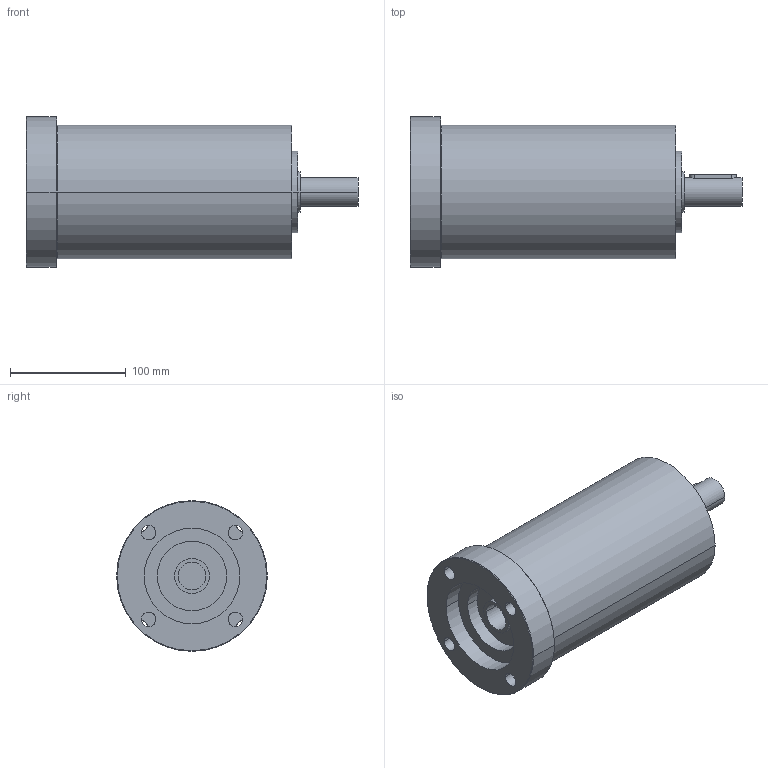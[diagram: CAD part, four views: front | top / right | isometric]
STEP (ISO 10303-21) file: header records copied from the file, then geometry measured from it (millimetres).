
FILE_DESCRIPTION(('CoCreate Modeling STEP Export'),'2;1');
FILE_NAME('GPR125_ig-48-64-80-100-140-196-245-343_25_B14_24_P21.stp','2014-08-26T14:22:39',(''),(''),'CoCreate Modeling STEP processor for AP214 (Solid Model)','CoCreate Modeling 16.00C 25-Feb-2009 (C) Parametric Technology GmbH','');
FILE_SCHEMA(('AUTOMOTIVE_DESIGN { 1 0 10303 214 1 1 1 1 }'));
Length unit declared in the file: millimetre
Products named in the file (2): GPR125_ig-48-64-80-100-140-196-245-343_25_B14_24_P21
Assembly tree (1 placements, depth 2):
  GPR125_ig-48-64-80-100-140-196-245-343_25_B14_24_P21
    GPR125_ig-48-64-80-100-140-196-245-343_25_B14_24_P21
Bounding box: 286.5 x 130 x 130 mm (x, y, z)
Volume: 2355585.8 mm3; surface area: 133816.4 mm2
Topology: 1 solids, 1 shells, 67 faces, 178 edges, 120 vertices
Faces by surface type: cylinder 38, plane 21, cone 8
Entity records: 1774 total; most frequent: ORIENTED_EDGE 352, CARTESIAN_POINT 330, DIRECTION 232, EDGE_CURVE 176, VERTEX_POINT 120, AXIS2_PLACEMENT_3D 90, EDGE_LOOP 84, FACE_OUTER_BOUND 67
